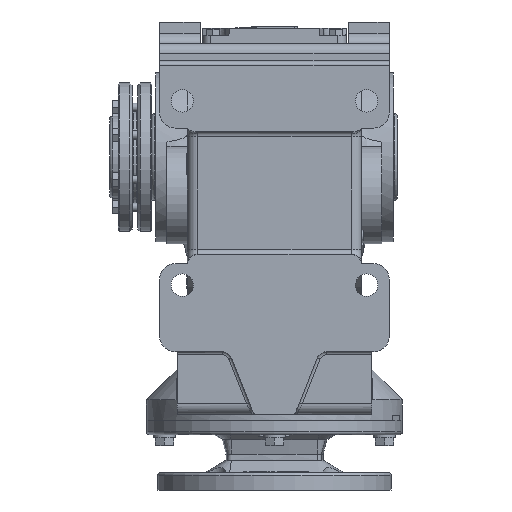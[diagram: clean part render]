
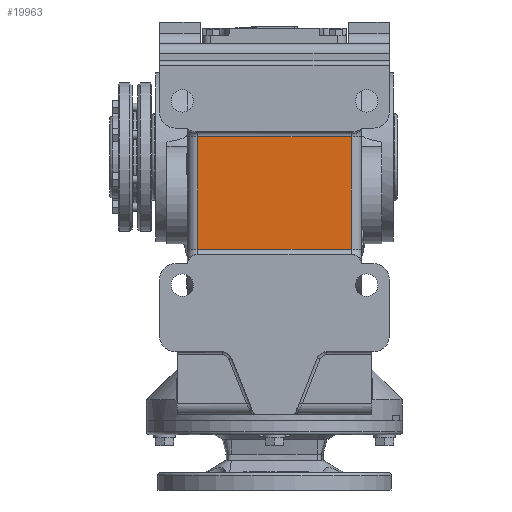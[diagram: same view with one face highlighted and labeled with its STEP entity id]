
A CAD part, front view. The second image highlights one B-rep face of the part: STEP entity #19963.
In plain terms, the highlighted planar face has unit normal (0, -1, 0).
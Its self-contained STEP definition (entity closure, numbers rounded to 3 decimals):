
#3759 = ORIENTED_EDGE ( 'NONE', *, *, #17101, .T. ) ;
#3760 = ORIENTED_EDGE ( 'NONE', *, *, #17102, .T. ) ;
#3761 = ORIENTED_EDGE ( 'NONE', *, *, #17095, .F. ) ;
#3762 = ORIENTED_EDGE ( 'NONE', *, *, #17103, .T. ) ;
#8094 = CARTESIAN_POINT ( 'NONE',  ( -75., -206., -90. ) ) ;
#8099 = CARTESIAN_POINT ( 'NONE',  ( -75., -206., 20. ) ) ;
#8103 = CARTESIAN_POINT ( 'NONE',  ( 75., -206., -90. ) ) ;
#8107 = CARTESIAN_POINT ( 'NONE',  ( 75., -206., 20. ) ) ;
#12032 = CARTESIAN_POINT ( 'NONE',  ( -112., -206., 20. ) ) ;
#12035 = DIRECTION ( 'NONE',  ( 1., 0., 0. ) ) ;
#12081 = DIRECTION ( 'NONE',  ( 1., 0., 0. ) ) ;
#12092 = CARTESIAN_POINT ( 'NONE',  ( 75., -206., 20. ) ) ;
#12095 = CARTESIAN_POINT ( 'NONE',  ( -112., -206., -90. ) ) ;
#12102 = DIRECTION ( 'NONE',  ( 0., 0., 1. ) ) ;
#12106 = CARTESIAN_POINT ( 'NONE',  ( -75., -206., -90. ) ) ;
#12107 = DIRECTION ( 'NONE',  ( 0., 0., -1. ) ) ;
#17095 = EDGE_CURVE ( 'NONE', #40751, #40760, #31268, .T. ) ;
#17101 = EDGE_CURVE ( 'NONE', #40746, #40756, #31273, .T. ) ;
#17102 = EDGE_CURVE ( 'NONE', #40756, #40760, #31276, .T. ) ;
#17103 = EDGE_CURVE ( 'NONE', #40751, #40746, #31279, .T. ) ;
#19963 = ADVANCED_FACE ( 'NONE', ( #46783 ), #24408, .T. ) ;
#24407 = CARTESIAN_POINT ( 'NONE',  ( -112., -206., 20. ) ) ;
#24408 = PLANE ( 'NONE',  #41558 ) ;
#24511 = DIRECTION ( 'NONE',  ( 0., -1., 0. ) ) ;
#24513 = DIRECTION ( 'NONE',  ( 0., 0., -1. ) ) ;
#31268 = LINE ( 'NONE', #12032, #31271 ) ;
#31271 = VECTOR ( 'NONE', #12035, 1000. ) ;
#31273 = LINE ( 'NONE', #12095, #31278 ) ;
#31276 = LINE ( 'NONE', #12092, #31280 ) ;
#31278 = VECTOR ( 'NONE', #12081, 1000. ) ;
#31279 = LINE ( 'NONE', #12106, #31282 ) ;
#31280 = VECTOR ( 'NONE', #12102, 1000. ) ;
#31282 = VECTOR ( 'NONE', #12107, 1000. ) ;
#35222 = EDGE_LOOP ( 'NONE', ( #3759, #3760, #3761, #3762 ) ) ;
#40746 = VERTEX_POINT ( 'NONE', #8094 ) ;
#40751 = VERTEX_POINT ( 'NONE', #8099 ) ;
#40756 = VERTEX_POINT ( 'NONE', #8103 ) ;
#40760 = VERTEX_POINT ( 'NONE', #8107 ) ;
#41558 = AXIS2_PLACEMENT_3D ( 'NONE', #24407, #24511, #24513 ) ;
#46783 = FACE_OUTER_BOUND ( 'NONE', #35222, .T. ) ;
